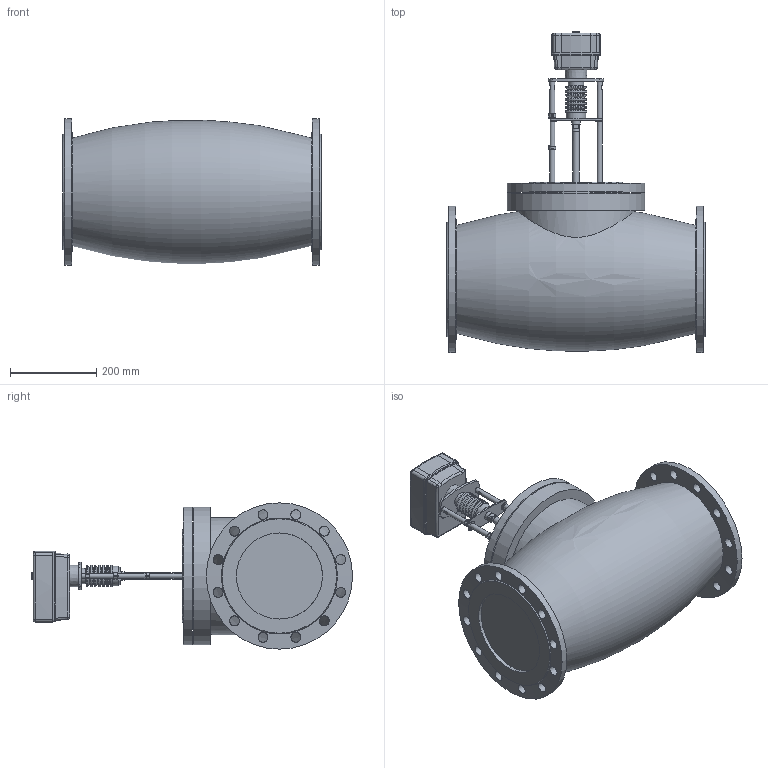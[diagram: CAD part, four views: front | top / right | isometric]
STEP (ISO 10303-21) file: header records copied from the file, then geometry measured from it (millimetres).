
FILE_DESCRIPTION(/* description */ ('Unknown'),/* implementation_level */ '2;1');
FILE_NAME(/* name */ 'Клапан TRV-200-120',/* time_stamp */ '2021-12-06T16:51:15+03:00',/* author */ ('Unknown'),/* organization */ ('Unknown'),/* preprocessor_version */ 'ST-DEVELOPER v16.7',/* originating_system */ 'DEX',/* authorisation */ $);
FILE_SCHEMA (('AUTOMOTIVE_DESIGN {1 0 10303 214 3 1 1}'));
Length unit declared in the file: millimetre
Products named in the file (1): 抔黽鳧 TRV-200-120
Bounding box: 600 x 746.4 x 340 mm (x, y, z)
Volume: 51824049.8 mm3; surface area: 1208724.3 mm2
Topology: 2 solids, 3 shells, 322 faces, 851 edges, 551 vertices
Faces by surface type: plane 148, cylinder 90, torus 36, cone 35, bspline 9, sphere 4
Full cylindrical faces by diameter (mm): 12.002 x4, 15 x1, 16 x1, 20 x1, 23 x24, 35.301 x1, 45.4 x1, 49.272 x1, 245 x1, 272.349 x1, 320 x2, 340 x2
Entity records: 13216 total; most frequent: CARTESIAN_POINT 3538, DIRECTION 1533, ORIENTED_EDGE 1420, EDGE_CURVE 710, AXIS2_PLACEMENT_3D 607, VERTEX_POINT 492, EDGE_LOOP 478, FACE_BOUND 478
